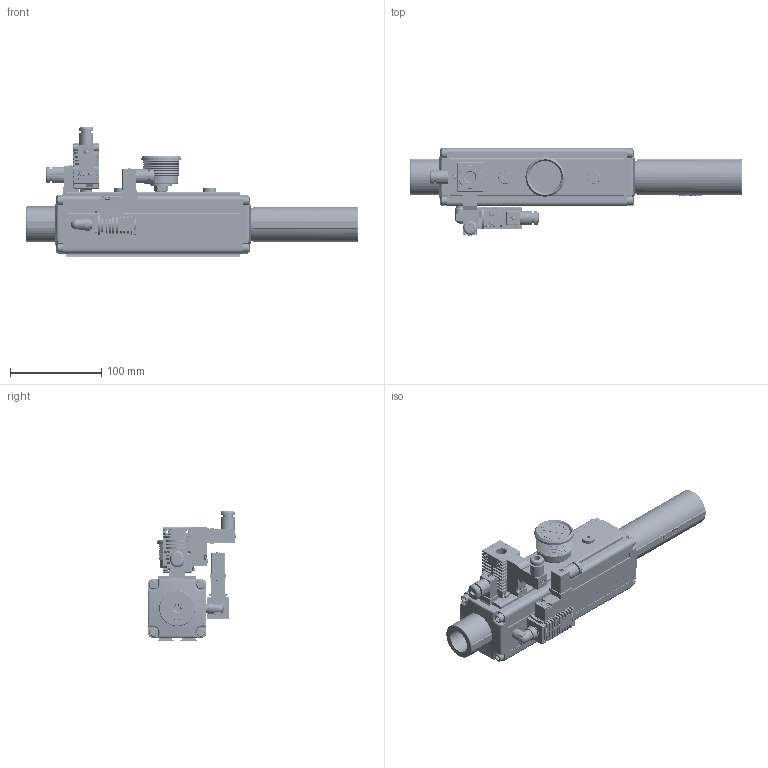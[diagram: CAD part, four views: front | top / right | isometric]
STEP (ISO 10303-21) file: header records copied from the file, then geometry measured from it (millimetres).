
FILE_DESCRIPTION( ( 'Unknown' ), '1' );
FILE_NAME( 'C:/Documents and Settings/Administrator/官帕 拳搁/PM 犁荐沥/PM303X1A-34-A3 R3-DL.stp', 'Unknown', ( 'Unknown' ), ( 'Unknown' ), 'PSStep 10.0', 'Unknown', ' ' );
FILE_SCHEMA( ( 'AUTOMOTIVE_DESIGN { 1 0 10303 214 1 1 1 1 }' ) );
Length unit declared in the file: millimetre
Products named in the file (8): Assem1; 1_0_35; VTS-01_34; Double Tread 18M-18M_34; VMS14_DIN_PT14_7; MS18 DIN_27; Vacuum Gauge_13; Elbow_18_double
Bounding box: 363.6 x 96.6 x 143.13 mm (x, y, z)
Volume: 1388422.5 mm3; surface area: 547083.6 mm2
Topology: 14 solids, 144 shells, 5784 faces, 15054 edges, 9788 vertices
Faces by surface type: plane 3536, cylinder 1632, cone 296, torus 174, bspline 106, extrusion 30, sphere 6, revolution 4
Full cylindrical faces by diameter (mm): 0.518 x2, 1 x16, 1.158 x2, 1.2 x4, 1.4 x4, 2.2 x4, 2.5 x12, 2.8 x2, 3 x16, 3.2 x4, 3.4 x18, 4 x4, 4.134 x16, 4.2 x8, 4.9 x2, 5 x4, 5.1 x2, 5.2 x8, 5.5 x4, 5.6 x2, 6 x22, 6.35 x2, 6.5 x16, 6.535 x4, 7 x10, 7.2 x4, 8 x4, 8.1 x2, 8.566 x12, 8.7 x4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
Entity records: 114141 total; most frequent: CARTESIAN_POINT 22145, DIRECTION 14083, ORIENTED_EDGE 13854, EDGE_CURVE 6927, AXIS2_PLACEMENT_3D 4705, VERTEX_POINT 4702, VECTOR 4671, LINE 4656
